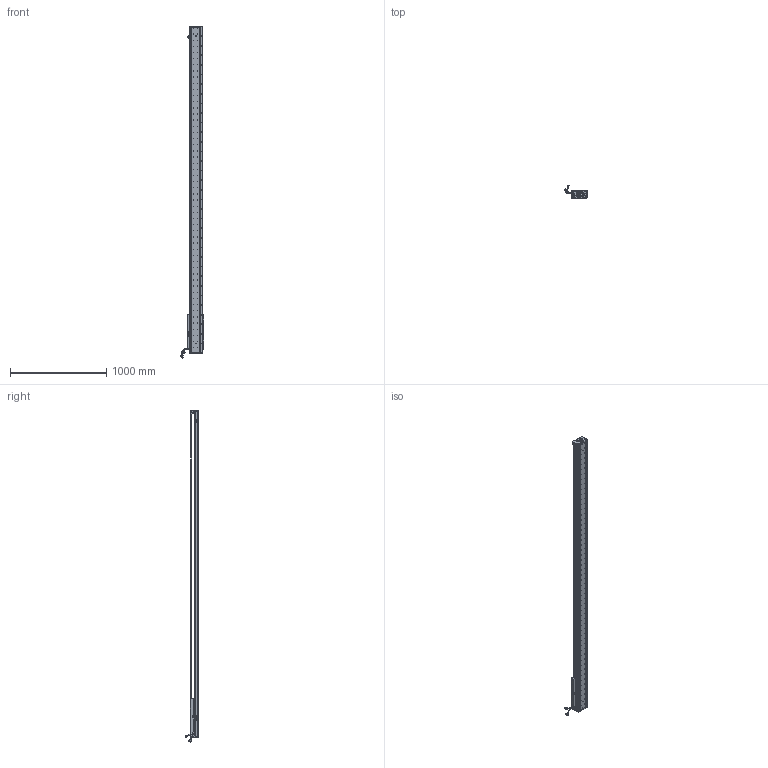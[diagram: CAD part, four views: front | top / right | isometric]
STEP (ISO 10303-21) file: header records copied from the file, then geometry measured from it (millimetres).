
FILE_DESCRIPTION (( 'STEP AP203' ), '1' );
FILE_NAME ('Z5-RY140D-1-L500-B-K.SLDASM_2950.step', '2021-05-17T08:42:34', ( '盈信电脑' ), ( '东莞市道滘镇水果街19号' ), 'SwSTEP 2.0', 'SolidWorks 2016', '' );
FILE_SCHEMA (( 'CONFIG_CONTROL_DESIGN' ));
Length unit declared in the file: millimetre
Products named in the file (36): Z-140詩湍傷裔啣; COVER; 榋妏寠巭燃_暯_M2_2; HARNESS; SCALE-Part-1; SCREW-M1.7-1; Z5-RY140D-1-L500-B-K.SLDASM_2950; SCREW-M1.7; LABEL; SCREW-M1.6-3; SEAL-Part-1; SEAL; 詩湍狟揤裔; SCREW-M1.6-2; HARNESS-Part-2; Z5-RY140圉猾敕臏賑輸(21遴); SCALE-Part-2; SHIELDPLATE; Z5-RY140-L500詩湍100mm遵_2950; 140雄赽晤鎢ん堤盄; SCREW-M1.6; HARNESS-Part-1; PSLH080_PSLF2; 080黍杅芛假蚾釱21遴; COVER-Part-1; Z5-RY140-L500直线电机模组底座_2950; PBU_SHEET; Z-RY140感应器672光电感应片; 140蚥薯蝶輸; 140-Z-臏賑輸盄裔(21遴); 覜茼ん672; 詩湍奻揤裔; HOLDER0; SCREW-M1.6-1; LABEL-Part-1; SCALE
Assembly tree (41 placements, depth 4):
  Z5-RY140D-1-L500-B-K.SLDASM_2950
    Z5-RY140-L500直线电机模组底座_2950
    Z-RY140感应器672光电感应片
    Z5-RY140圉猾敕臏賑輸(21遴)
    覜茼ん672  x3
    Z5-RY140-L500詩湍100mm遵_2950
    PSLH080_PSLF2
      SCALE
        SCALE-Part-1
        SCALE-Part-2
      HARNESS
        HARNESS-Part-1
        HARNESS-Part-2
      LABEL
        LABEL-Part-1
      COVER
        COVER-Part-1
      SEAL
        SEAL-Part-1
      榋妏寠巭燃_暯_M2_2
      SHIELDPLATE
      SCREW-M1.7
      SCREW-M1.7-1
      PBU_SHEET
      SCREW-M1.6
      SCREW-M1.6-1
      SCREW-M1.6-2
      SCREW-M1.6-3
      HOLDER0
    080黍杅芛假蚾釱21遴
    140-Z-臏賑輸盄裔(21遴)
    Z-140詩湍傷裔啣  x2
    詩湍狟揤裔  x2
    詩湍奻揤裔  x2
    140蚥薯蝶輸  x2
    140雄赽晤鎢ん堤盄
Bounding box: 239.79 x 143.88 x 3455.87 mm (x, y, z)
Volume: 11175174.2 mm3; surface area: 2876192.6 mm2
Topology: 36 solids, 36 shells, 4716 faces, 12932 edges, 8193 vertices
Faces by surface type: cylinder 2658, plane 1478, cone 458, torus 69, bspline 53
Entity records: 152800 total; most frequent: CARTESIAN_POINT 44037, ORIENTED_EDGE 22672, DIRECTION 20744, EDGE_CURVE 11336, AXIS2_PLACEMENT_3D 7764, VERTEX_POINT 7361, VECTOR 5216, LINE 5216
